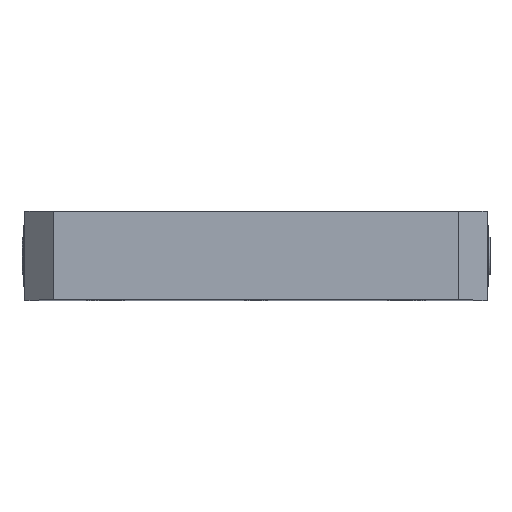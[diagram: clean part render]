
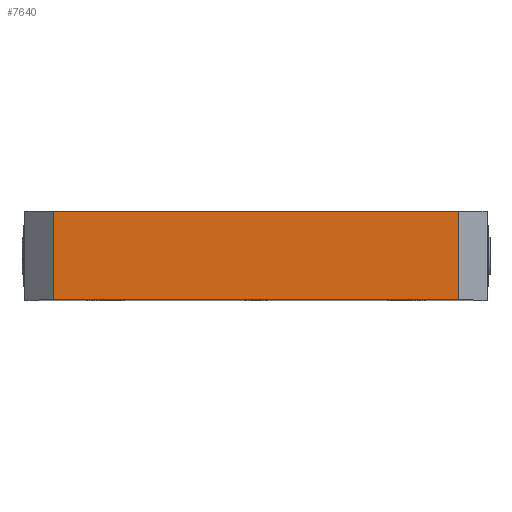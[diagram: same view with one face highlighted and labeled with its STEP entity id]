
A CAD part, top view. The second image highlights one B-rep face of the part: STEP entity #7640.
In plain terms, the highlighted planar face has unit normal (0, 0, 1).
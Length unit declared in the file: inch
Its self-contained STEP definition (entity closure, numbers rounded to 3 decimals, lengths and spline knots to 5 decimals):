
#122 = LINE ( 'NONE', #6609, #9264 ) ;
#217 = DIRECTION ( 'NONE',  ( 0., 1., 0. ) ) ;
#308 = DIRECTION ( 'NONE',  ( 0., 0., -1. ) ) ;
#848 = DIRECTION ( 'NONE',  ( 1., 0., 0. ) ) ;
#1463 = DIRECTION ( 'NONE',  ( 0., -1., 0. ) ) ;
#1468 = CARTESIAN_POINT ( 'NONE',  ( -3.07087, 0., 3.46457 ) ) ;
#1503 = EDGE_CURVE ( 'NONE', #2349, #9012, #7928, .T. ) ;
#1844 = ORIENTED_EDGE ( 'NONE', *, *, #4949, .F. ) ;
#1879 = PLANE ( 'NONE',  #8190 ) ;
#1967 = CARTESIAN_POINT ( 'NONE',  ( -2.69587, 0., 3.46457 ) ) ;
#1972 = ORIENTED_EDGE ( 'NONE', *, *, #5850, .T. ) ;
#1975 = FACE_OUTER_BOUND ( 'NONE', #6053, .T. ) ;
#2112 = CARTESIAN_POINT ( 'NONE',  ( -3.07087, 1.1811, 3.46457 ) ) ;
#2349 = VERTEX_POINT ( 'NONE', #3370 ) ;
#2523 = EDGE_CURVE ( 'NONE', #6921, #7536, #122, .T. ) ;
#2829 = ORIENTED_EDGE ( 'NONE', *, *, #2523, .T. ) ;
#3216 = DIRECTION ( 'NONE',  ( -1., 0., 0. ) ) ;
#3370 = CARTESIAN_POINT ( 'NONE',  ( -2.69587, 1.1811, 3.46457 ) ) ;
#3720 = ORIENTED_EDGE ( 'NONE', *, *, #1503, .T. ) ;
#4112 = CARTESIAN_POINT ( 'NONE',  ( -3.07087, 1.1811, 3.46457 ) ) ;
#4876 = DIRECTION ( 'NONE',  ( 1., 0., 0. ) ) ;
#4949 = EDGE_CURVE ( 'NONE', #2349, #7536, #6275, .T. ) ;
#5208 = CARTESIAN_POINT ( 'NONE',  ( 2.69587, 1.1811, 3.46457 ) ) ;
#5850 = EDGE_CURVE ( 'NONE', #9012, #6921, #7224, .T. ) ;
#6053 = EDGE_LOOP ( 'NONE', ( #1844, #3720, #1972, #2829 ) ) ;
#6275 = LINE ( 'NONE', #2112, #8329 ) ;
#6609 = CARTESIAN_POINT ( 'NONE',  ( 2.69587, 1.1811, 3.46457 ) ) ;
#6649 = CARTESIAN_POINT ( 'NONE',  ( -2.69587, 1.1811, 3.46457 ) ) ;
#6921 = VERTEX_POINT ( 'NONE', #9052 ) ;
#7224 = LINE ( 'NONE', #1468, #9102 ) ;
#7536 = VERTEX_POINT ( 'NONE', #5208 ) ;
#7640 = ADVANCED_FACE ( 'NONE', ( #1975 ), #1879, .F. ) ;
#7928 = LINE ( 'NONE', #6649, #9127 ) ;
#8190 = AXIS2_PLACEMENT_3D ( 'NONE', #4112, #308, #3216 ) ;
#8329 = VECTOR ( 'NONE', #4876, 39.37008 ) ;
#9012 = VERTEX_POINT ( 'NONE', #1967 ) ;
#9052 = CARTESIAN_POINT ( 'NONE',  ( 2.69587, 0., 3.46457 ) ) ;
#9102 = VECTOR ( 'NONE', #848, 39.37008 ) ;
#9127 = VECTOR ( 'NONE', #1463, 39.37008 ) ;
#9264 = VECTOR ( 'NONE', #217, 39.37008 ) ;
